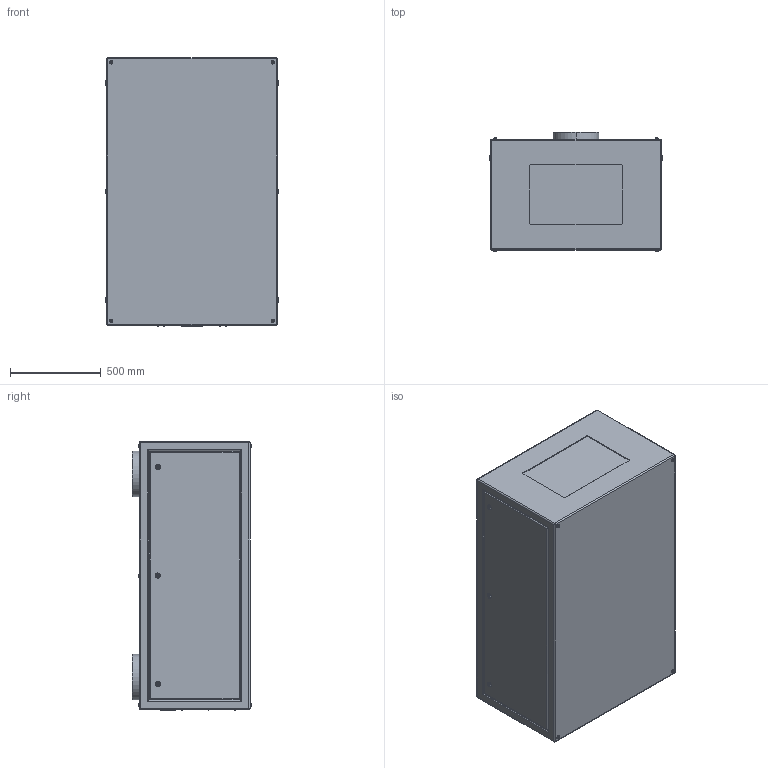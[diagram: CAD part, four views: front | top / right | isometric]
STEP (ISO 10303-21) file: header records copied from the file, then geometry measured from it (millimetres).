
FILE_DESCRIPTION (( 'STEP AP214' ), '1' );
FILE_NAME ('Tacit 56.514.L R08.STEP', '2022-09-11T22:40:38', ( '' ), ( '' ), 'SwSTEP 2.0', 'SolidWorks 2020', '' );
FILE_SCHEMA (( 'AUTOMOTIVE_DESIGN' ));
Length unit declared in the file: inch
Products named in the file (1): Tacit 56.514.L R08
Bounding box: 952.5 x 654.96 x 1478.28 mm (x, y, z)
Volume: 842382125.3 mm3; surface area: 6076822.3 mm2
Topology: 1 solids, 7 shells, 401 faces, 892 edges, 560 vertices
Faces by surface type: plane 177, cylinder 168, torus 48, sphere 8
Entity records: 15011 total; most frequent: CARTESIAN_POINT 2382, DIRECTION 1972, ORIENTED_EDGE 1768, EDGE_CURVE 884, AXIS2_PLACEMENT_3D 782, VERTEX_POINT 560, EDGE_LOOP 464, LINE 408
